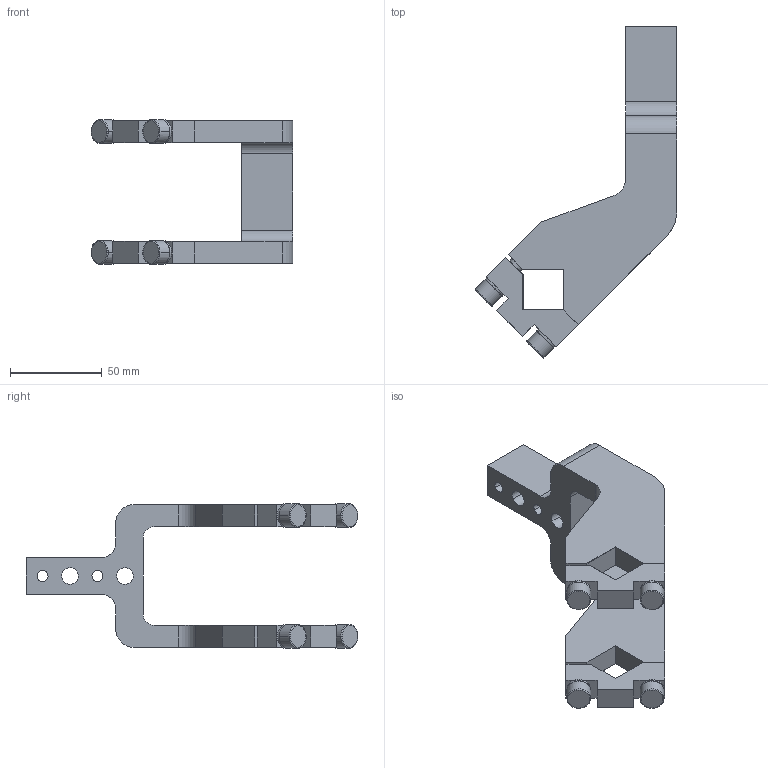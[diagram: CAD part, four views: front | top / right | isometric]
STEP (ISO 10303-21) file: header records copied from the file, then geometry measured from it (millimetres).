
FILE_DESCRIPTION(('CATIA V5 STEP Exchange'),'2;1');
FILE_NAME('E:\clampact\CLAMPACT\clampact\catalog\Clampact Arm\Arm 3D\Clampact Arm\arm_K63_45_A40_Clampact.stp','2022-12-06T08:09:42+00:00',('none'),('none'),'CATIA Version 5 Release 19 SP 6 (IN-10)','CATIA V5 STEP AP203','none');
FILE_SCHEMA(('CONFIG_CONTROL_DESIGN'));
Length unit declared in the file: millimetre
Products named in the file (1): K63_45_A40_Clampact_柯莱普
Bounding box: 110.22 x 181.22 x 79 mm (x, y, z)
Volume: 178115.2 mm3; surface area: 47031.3 mm2
Topology: 1 solids, 5 shells, 166 faces, 412 edges, 256 vertices
Faces by surface type: plane 84, cylinder 50, cone 20, torus 12
Entity records: 4628 total; most frequent: CARTESIAN_POINT 953, ORIENTED_EDGE 808, DIRECTION 604, EDGE_CURVE 404, VERTEX_POINT 256, AXIS2_PLACEMENT_3D 251, VECTOR 240, LINE 240
